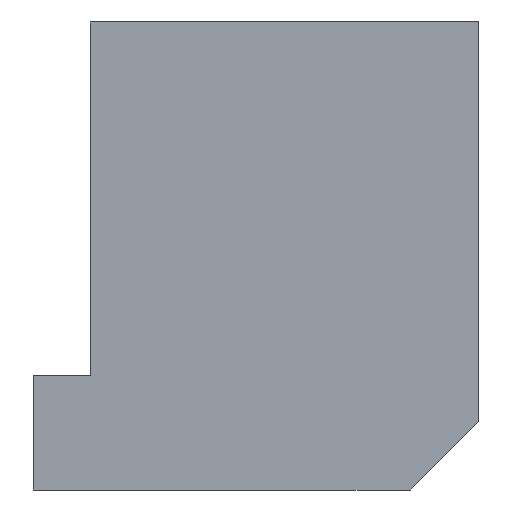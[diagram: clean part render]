
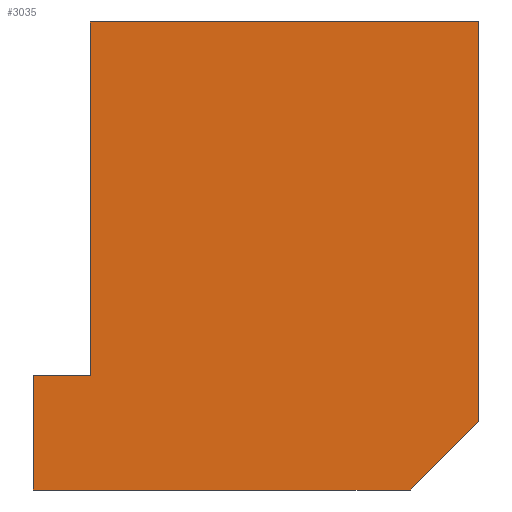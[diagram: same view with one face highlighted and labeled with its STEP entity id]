
A CAD part, left-side view. The second image highlights one B-rep face of the part: STEP entity #3035.
In plain terms, the highlighted planar face has unit normal (-1, 0, 0).
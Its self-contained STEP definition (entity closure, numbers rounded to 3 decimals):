
#296 = PLANE ( 'NONE',  #4100 ) ;
#894 = CARTESIAN_POINT ( 'NONE',  ( -26., 19.5, -15.5 ) ) ;
#978 = DIRECTION ( 'NONE',  ( 0., -1., 0. ) ) ;
#1200 = CARTESIAN_POINT ( 'NONE',  ( -26., 0., 0. ) ) ;
#1503 = ORIENTED_EDGE ( 'NONE', *, *, #4730, .F. ) ;
#1580 = FACE_OUTER_BOUND ( 'NONE', #7788, .T. ) ;
#1624 = DIRECTION ( 'NONE',  ( 0., 1., 0. ) ) ;
#1636 = CARTESIAN_POINT ( 'NONE',  ( -26., 17., -15.5 ) ) ;
#1697 = CARTESIAN_POINT ( 'NONE',  ( -26., 0., -17.5 ) ) ;
#2326 = LINE ( 'NONE', #4838, #4803 ) ;
#2374 = EDGE_CURVE ( 'NONE', #4814, #6246, #2326, .T. ) ;
#2431 = DIRECTION ( 'NONE',  ( 0., 0., 1. ) ) ;
#2781 = EDGE_CURVE ( 'NONE', #3765, #7630, #5149, .T. ) ;
#2784 = CARTESIAN_POINT ( 'NONE',  ( -26., 17., 0. ) ) ;
#3035 = ADVANCED_FACE ( 'NONE', ( #1580 ), #296, .T. ) ;
#3106 = ORIENTED_EDGE ( 'NONE', *, *, #6299, .F. ) ;
#3109 = ORIENTED_EDGE ( 'NONE', *, *, #2374, .F. ) ;
#3329 = CARTESIAN_POINT ( 'NONE',  ( -26., 0., 0. ) ) ;
#3338 = VECTOR ( 'NONE', #978, 1000. ) ;
#3461 = CARTESIAN_POINT ( 'NONE',  ( -26., 19.5, -20.5 ) ) ;
#3517 = LINE ( 'NONE', #1697, #6154 ) ;
#3531 = CARTESIAN_POINT ( 'NONE',  ( -26., 10.5, -14. ) ) ;
#3580 = EDGE_CURVE ( 'NONE', #6246, #3881, #4817, .T. ) ;
#3585 = VECTOR ( 'NONE', #7694, 1000. ) ;
#3682 = VERTEX_POINT ( 'NONE', #7553 ) ;
#3696 = CARTESIAN_POINT ( 'NONE',  ( -26., 0., -17.5 ) ) ;
#3765 = VERTEX_POINT ( 'NONE', #1200 ) ;
#3881 = VERTEX_POINT ( 'NONE', #2784 ) ;
#3997 = VECTOR ( 'NONE', #5292, 1000. ) ;
#4038 = LINE ( 'NONE', #4196, #3338 ) ;
#4100 = AXIS2_PLACEMENT_3D ( 'NONE', #3531, #6045, #1624 ) ;
#4196 = CARTESIAN_POINT ( 'NONE',  ( -26., 0., 0. ) ) ;
#4210 = DIRECTION ( 'NONE',  ( 0., -1., 0. ) ) ;
#4217 = CARTESIAN_POINT ( 'NONE',  ( -26., 19.5, -20.5 ) ) ;
#4546 = LINE ( 'NONE', #5906, #3997 ) ;
#4730 = EDGE_CURVE ( 'NONE', #7630, #3682, #3517, .T. ) ;
#4803 = VECTOR ( 'NONE', #4210, 1000. ) ;
#4814 = VERTEX_POINT ( 'NONE', #894 ) ;
#4817 = LINE ( 'NONE', #7357, #7585 ) ;
#4838 = CARTESIAN_POINT ( 'NONE',  ( -26., 19.5, -15.5 ) ) ;
#5149 = LINE ( 'NONE', #3329, #3585 ) ;
#5292 = DIRECTION ( 'NONE',  ( 0., 1., 0. ) ) ;
#5363 = DIRECTION ( 'NONE',  ( 0., 0., 1. ) ) ;
#5815 = ORIENTED_EDGE ( 'NONE', *, *, #8026, .F. ) ;
#5906 = CARTESIAN_POINT ( 'NONE',  ( -26., 3., -20.5 ) ) ;
#5952 = EDGE_CURVE ( 'NONE', #3881, #3765, #4038, .T. ) ;
#6045 = DIRECTION ( 'NONE',  ( -1., 0., 0. ) ) ;
#6073 = ORIENTED_EDGE ( 'NONE', *, *, #5952, .F. ) ;
#6101 = VECTOR ( 'NONE', #5363, 1000. ) ;
#6154 = VECTOR ( 'NONE', #7419, 1000. ) ;
#6246 = VERTEX_POINT ( 'NONE', #1636 ) ;
#6299 = EDGE_CURVE ( 'NONE', #7502, #4814, #7317, .T. ) ;
#6448 = ORIENTED_EDGE ( 'NONE', *, *, #2781, .F. ) ;
#6767 = ORIENTED_EDGE ( 'NONE', *, *, #3580, .F. ) ;
#7317 = LINE ( 'NONE', #3461, #6101 ) ;
#7357 = CARTESIAN_POINT ( 'NONE',  ( -26., 17., 0. ) ) ;
#7419 = DIRECTION ( 'NONE',  ( 0., 0.707, -0.707 ) ) ;
#7502 = VERTEX_POINT ( 'NONE', #4217 ) ;
#7553 = CARTESIAN_POINT ( 'NONE',  ( -26., 3., -20.5 ) ) ;
#7585 = VECTOR ( 'NONE', #2431, 1000. ) ;
#7630 = VERTEX_POINT ( 'NONE', #3696 ) ;
#7694 = DIRECTION ( 'NONE',  ( 0., 0., -1. ) ) ;
#7788 = EDGE_LOOP ( 'NONE', ( #6767, #3109, #3106, #5815, #1503, #6448, #6073 ) ) ;
#8026 = EDGE_CURVE ( 'NONE', #3682, #7502, #4546, .T. ) ;
